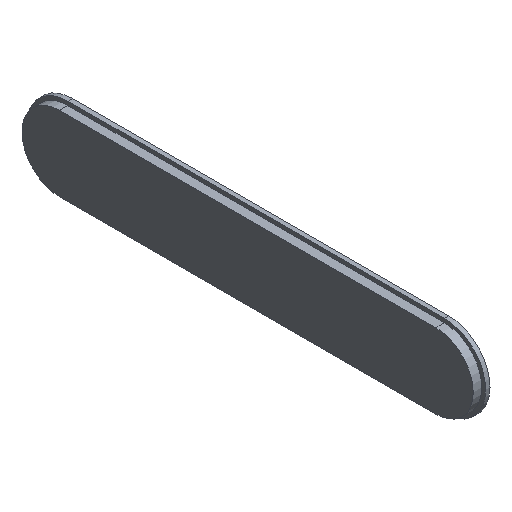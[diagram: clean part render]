
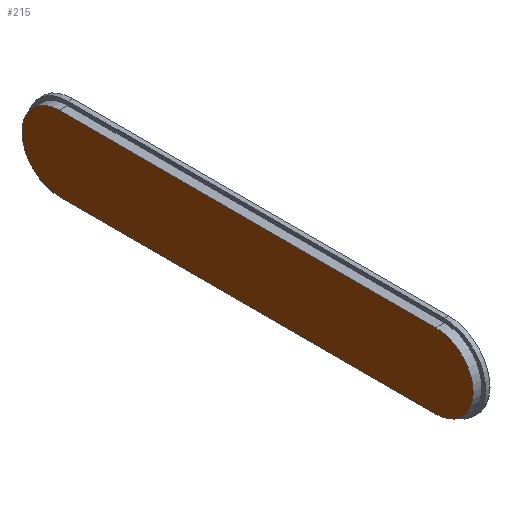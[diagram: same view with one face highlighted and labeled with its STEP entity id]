
A CAD part, isometric view. The second image highlights one B-rep face of the part: STEP entity #215.
In plain terms, the highlighted planar face has unit normal (-1, 0, 0).
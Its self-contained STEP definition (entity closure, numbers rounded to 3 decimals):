
#22 = VERTEX_POINT('',#23);
#23 = CARTESIAN_POINT('',(-39.3,-29.,20.15));
#32 = PLANE('',#33);
#33 = AXIS2_PLACEMENT_3D('',#34,#35,#36);
#34 = CARTESIAN_POINT('',(-38.45,-29.,20.15));
#35 = DIRECTION('',(0.,0.,1.));
#36 = DIRECTION('',(0.,1.,0.));
#44 = CYLINDRICAL_SURFACE('',#45,5.9);
#45 = AXIS2_PLACEMENT_3D('',#46,#47,#48);
#46 = CARTESIAN_POINT('',(-38.45,-29.,14.25));
#47 = DIRECTION('',(-1.,0.,0.));
#48 = DIRECTION('',(0.,0.,-1.));
#85 = VERTEX_POINT('',#86);
#86 = CARTESIAN_POINT('',(-39.3,30.4,20.15));
#100 = CYLINDRICAL_SURFACE('',#101,5.9);
#101 = AXIS2_PLACEMENT_3D('',#102,#103,#104);
#102 = CARTESIAN_POINT('',(-38.45,30.4,14.25));
#103 = DIRECTION('',(-1.,0.,0.));
#104 = DIRECTION('',(0.,0.,1.));
#112 = EDGE_CURVE('',#22,#85,#113,.T.);
#113 = SURFACE_CURVE('',#114,(#118,#125),.PCURVE_S1.);
#114 = LINE('',#115,#116);
#115 = CARTESIAN_POINT('',(-39.3,-29.,20.15));
#116 = VECTOR('',#117,1.);
#117 = DIRECTION('',(0.,1.,0.));
#118 = PCURVE('',#32,#119);
#119 = DEFINITIONAL_REPRESENTATION('',(#120),#124);
#120 = LINE('',#121,#122);
#121 = CARTESIAN_POINT('',(0.,0.85));
#122 = VECTOR('',#123,1.);
#123 = DIRECTION('',(1.,0.));
#124 = ( GEOMETRIC_REPRESENTATION_CONTEXT(2) 
PARAMETRIC_REPRESENTATION_CONTEXT() REPRESENTATION_CONTEXT('2D SPACE',''
  ) );
#125 = PCURVE('',#126,#131);
#126 = PLANE('',#127);
#127 = AXIS2_PLACEMENT_3D('',#128,#129,#130);
#128 = CARTESIAN_POINT('',(-39.3,0.7,14.25));
#129 = DIRECTION('',(-1.,-0.,-0.));
#130 = DIRECTION('',(0.,0.,-1.));
#131 = DEFINITIONAL_REPRESENTATION('',(#132),#136);
#132 = LINE('',#133,#134);
#133 = CARTESIAN_POINT('',(-5.9,29.7));
#134 = VECTOR('',#135,1.);
#135 = DIRECTION('',(0.,-1.));
#136 = ( GEOMETRIC_REPRESENTATION_CONTEXT(2) 
PARAMETRIC_REPRESENTATION_CONTEXT() REPRESENTATION_CONTEXT('2D SPACE',''
  ) );
#142 = VERTEX_POINT('',#143);
#143 = CARTESIAN_POINT('',(-39.3,-29.,8.35));
#159 = PLANE('',#160);
#160 = AXIS2_PLACEMENT_3D('',#161,#162,#163);
#161 = CARTESIAN_POINT('',(-38.45,30.4,8.35));
#162 = DIRECTION('',(0.,0.,-1.));
#163 = DIRECTION('',(0.,-1.,0.));
#194 = EDGE_CURVE('',#142,#22,#195,.T.);
#195 = SURFACE_CURVE('',#196,(#201,#208),.PCURVE_S1.);
#196 = CIRCLE('',#197,5.9);
#197 = AXIS2_PLACEMENT_3D('',#198,#199,#200);
#198 = CARTESIAN_POINT('',(-39.3,-29.,14.25));
#199 = DIRECTION('',(-1.,0.,0.));
#200 = DIRECTION('',(0.,0.,-1.));
#201 = PCURVE('',#44,#202);
#202 = DEFINITIONAL_REPRESENTATION('',(#203),#207);
#203 = LINE('',#204,#205);
#204 = CARTESIAN_POINT('',(-0.,0.85));
#205 = VECTOR('',#206,1.);
#206 = DIRECTION('',(1.,-0.));
#207 = ( GEOMETRIC_REPRESENTATION_CONTEXT(2) 
PARAMETRIC_REPRESENTATION_CONTEXT() REPRESENTATION_CONTEXT('2D SPACE',''
  ) );
#208 = PCURVE('',#126,#209);
#209 = DEFINITIONAL_REPRESENTATION('',(#210),#214);
#210 = CIRCLE('',#211,5.9);
#211 = AXIS2_PLACEMENT_2D('',#212,#213);
#212 = CARTESIAN_POINT('',(0.,29.7));
#213 = DIRECTION('',(1.,0.));
#214 = ( GEOMETRIC_REPRESENTATION_CONTEXT(2) 
PARAMETRIC_REPRESENTATION_CONTEXT() REPRESENTATION_CONTEXT('2D SPACE',''
  ) );
#215 = ADVANCED_FACE('',(#216),#126,.T.);
#216 = FACE_BOUND('',#217,.T.);
#217 = EDGE_LOOP('',(#218,#219,#243,#264));
#218 = ORIENTED_EDGE('',*,*,#112,.T.);
#219 = ORIENTED_EDGE('',*,*,#220,.T.);
#220 = EDGE_CURVE('',#85,#221,#223,.T.);
#221 = VERTEX_POINT('',#222);
#222 = CARTESIAN_POINT('',(-39.3,30.4,8.35));
#223 = SURFACE_CURVE('',#224,(#229,#236),.PCURVE_S1.);
#224 = CIRCLE('',#225,5.9);
#225 = AXIS2_PLACEMENT_3D('',#226,#227,#228);
#226 = CARTESIAN_POINT('',(-39.3,30.4,14.25));
#227 = DIRECTION('',(-1.,0.,0.));
#228 = DIRECTION('',(0.,0.,1.));
#229 = PCURVE('',#126,#230);
#230 = DEFINITIONAL_REPRESENTATION('',(#231),#235);
#231 = CIRCLE('',#232,5.9);
#232 = AXIS2_PLACEMENT_2D('',#233,#234);
#233 = CARTESIAN_POINT('',(0.,-29.7));
#234 = DIRECTION('',(-1.,0.));
#235 = ( GEOMETRIC_REPRESENTATION_CONTEXT(2) 
PARAMETRIC_REPRESENTATION_CONTEXT() REPRESENTATION_CONTEXT('2D SPACE',''
  ) );
#236 = PCURVE('',#100,#237);
#237 = DEFINITIONAL_REPRESENTATION('',(#238),#242);
#238 = LINE('',#239,#240);
#239 = CARTESIAN_POINT('',(-0.,0.85));
#240 = VECTOR('',#241,1.);
#241 = DIRECTION('',(1.,-0.));
#242 = ( GEOMETRIC_REPRESENTATION_CONTEXT(2) 
PARAMETRIC_REPRESENTATION_CONTEXT() REPRESENTATION_CONTEXT('2D SPACE',''
  ) );
#243 = ORIENTED_EDGE('',*,*,#244,.T.);
#244 = EDGE_CURVE('',#221,#142,#245,.T.);
#245 = SURFACE_CURVE('',#246,(#250,#257),.PCURVE_S1.);
#246 = LINE('',#247,#248);
#247 = CARTESIAN_POINT('',(-39.3,30.4,8.35));
#248 = VECTOR('',#249,1.);
#249 = DIRECTION('',(0.,-1.,0.));
#250 = PCURVE('',#126,#251);
#251 = DEFINITIONAL_REPRESENTATION('',(#252),#256);
#252 = LINE('',#253,#254);
#253 = CARTESIAN_POINT('',(5.9,-29.7));
#254 = VECTOR('',#255,1.);
#255 = DIRECTION('',(0.,1.));
#256 = ( GEOMETRIC_REPRESENTATION_CONTEXT(2) 
PARAMETRIC_REPRESENTATION_CONTEXT() REPRESENTATION_CONTEXT('2D SPACE',''
  ) );
#257 = PCURVE('',#159,#258);
#258 = DEFINITIONAL_REPRESENTATION('',(#259),#263);
#259 = LINE('',#260,#261);
#260 = CARTESIAN_POINT('',(0.,0.85));
#261 = VECTOR('',#262,1.);
#262 = DIRECTION('',(1.,0.));
#263 = ( GEOMETRIC_REPRESENTATION_CONTEXT(2) 
PARAMETRIC_REPRESENTATION_CONTEXT() REPRESENTATION_CONTEXT('2D SPACE',''
  ) );
#264 = ORIENTED_EDGE('',*,*,#194,.T.);
